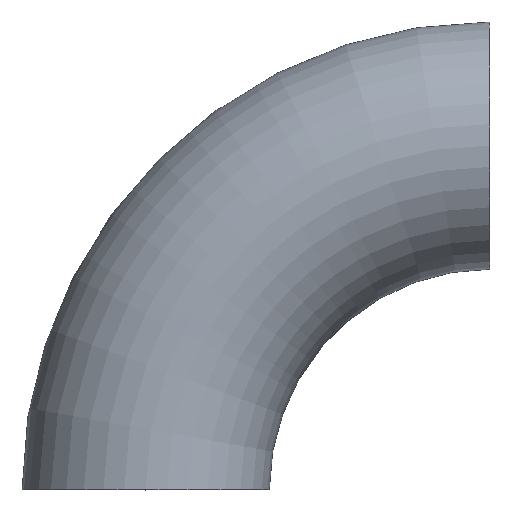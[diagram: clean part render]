
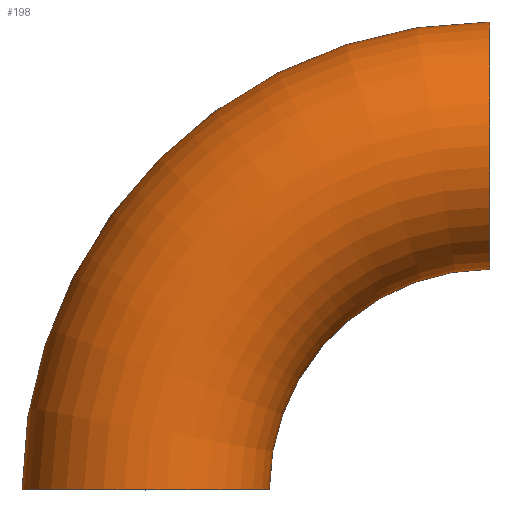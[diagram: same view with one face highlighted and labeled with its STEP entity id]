
A CAD part, top view. The second image highlights one B-rep face of the part: STEP entity #198.
In plain terms, the highlighted toroidal (fillet/blend) face has major radius 305 mm and minor radius 109.55 mm.
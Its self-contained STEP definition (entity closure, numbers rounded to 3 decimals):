
#7 = EDGE_CURVE ( 'NONE', #241, #149, #79, .T. ) ;
#13 = AXIS2_PLACEMENT_3D ( 'NONE', #129, #17, #18 ) ;
#17 = DIRECTION ( 'NONE',  ( 0., 0., 1. ) ) ;
#18 = DIRECTION ( 'NONE',  ( 1., 0., 0. ) ) ;
#19 = CIRCLE ( 'NONE', #218, 414.55 ) ;
#38 = VERTEX_POINT ( 'NONE', #103 ) ;
#42 = CARTESIAN_POINT ( 'NONE',  ( 305., 0., 0. ) ) ;
#44 = VERTEX_POINT ( 'NONE', #108 ) ;
#46 = TOROIDAL_SURFACE ( 'NONE', #13, 305., 109.55 ) ;
#48 = DIRECTION ( 'NONE',  ( 1., 0., 0. ) ) ;
#52 = CARTESIAN_POINT ( 'NONE',  ( 305., 195.45, 0. ) ) ;
#55 = DIRECTION ( 'NONE',  ( 1., 0., 0. ) ) ;
#59 = DIRECTION ( 'NONE',  ( 0., 0., 1. ) ) ;
#62 = DIRECTION ( 'NONE',  ( 1., 0., 0. ) ) ;
#65 = AXIS2_PLACEMENT_3D ( 'NONE', #146, #184, #188 ) ;
#79 = CIRCLE ( 'NONE', #211, 109.55 ) ;
#80 = FACE_OUTER_BOUND ( 'NONE', #231, .T. ) ;
#91 = ORIENTED_EDGE ( 'NONE', *, *, #192, .T. ) ;
#103 = CARTESIAN_POINT ( 'NONE',  ( -109.55, 0., 0. ) ) ;
#104 = CARTESIAN_POINT ( 'NONE',  ( 305., 305., 0. ) ) ;
#108 = CARTESIAN_POINT ( 'NONE',  ( 109.55, 0., 0. ) ) ;
#109 = AXIS2_PLACEMENT_3D ( 'NONE', #42, #116, #62 ) ;
#116 = DIRECTION ( 'NONE',  ( 0., 0., 1. ) ) ;
#123 = DIRECTION ( 'NONE',  ( 0., 0., 1. ) ) ;
#129 = CARTESIAN_POINT ( 'NONE',  ( 305., 0., 0. ) ) ;
#135 = ORIENTED_EDGE ( 'NONE', *, *, #233, .F. ) ;
#146 = CARTESIAN_POINT ( 'NONE',  ( 0., 0., 0. ) ) ;
#149 = VERTEX_POINT ( 'NONE', #52 ) ;
#159 = CIRCLE ( 'NONE', #109, 195.45 ) ;
#177 = ORIENTED_EDGE ( 'NONE', *, *, #179, .T. ) ;
#179 = EDGE_CURVE ( 'NONE', #241, #38, #19, .T. ) ;
#184 = DIRECTION ( 'NONE',  ( 0., 1., 0. ) ) ;
#187 = CARTESIAN_POINT ( 'NONE',  ( 305., 0., 0. ) ) ;
#188 = DIRECTION ( 'NONE',  ( 0., 0., 1. ) ) ;
#192 = EDGE_CURVE ( 'NONE', #38, #44, #246, .T. ) ;
#198 = ADVANCED_FACE ( 'NONE', ( #80 ), #46, .T. ) ;
#211 = AXIS2_PLACEMENT_3D ( 'NONE', #104, #48, #123 ) ;
#218 = AXIS2_PLACEMENT_3D ( 'NONE', #187, #59, #55 ) ;
#231 = EDGE_LOOP ( 'NONE', ( #236, #177, #91, #135 ) ) ;
#233 = EDGE_CURVE ( 'NONE', #149, #44, #159, .T. ) ;
#236 = ORIENTED_EDGE ( 'NONE', *, *, #7, .F. ) ;
#241 = VERTEX_POINT ( 'NONE', #253 ) ;
#246 = CIRCLE ( 'NONE', #65, 109.55 ) ;
#253 = CARTESIAN_POINT ( 'NONE',  ( 305., 414.55, 0. ) ) ;
